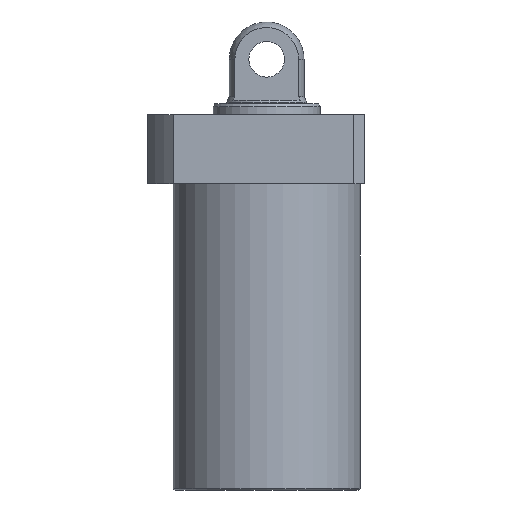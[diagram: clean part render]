
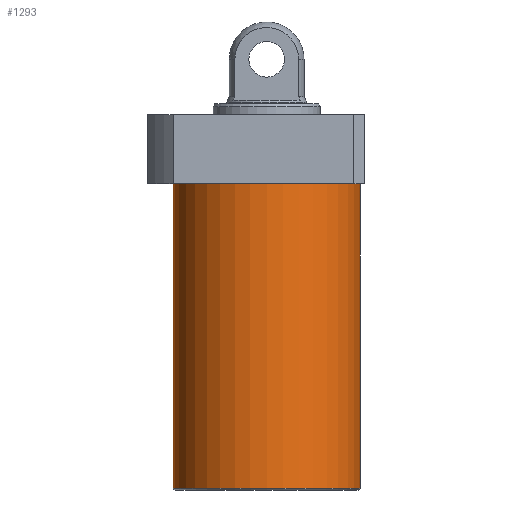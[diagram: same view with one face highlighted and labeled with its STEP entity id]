
A CAD part, front view. The second image highlights one B-rep face of the part: STEP entity #1293.
In plain terms, the highlighted cylindrical face has radius 52.5 mm (diameter 105 mm), a partial arc.
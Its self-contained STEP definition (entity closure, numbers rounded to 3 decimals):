
#2 = CARTESIAN_POINT ( 'NONE',  ( 0., 0., -190.5 ) ) ;
#21 = FACE_OUTER_BOUND ( 'NONE', #605, .T. ) ;
#40 = VERTEX_POINT ( 'NONE', #1475 ) ;
#44 = AXIS2_PLACEMENT_3D ( 'NONE', #2, #1019, #1024 ) ;
#80 = VERTEX_POINT ( 'NONE', #1321 ) ;
#290 = AXIS2_PLACEMENT_3D ( 'NONE', #561, #1551, #1688 ) ;
#297 = EDGE_CURVE ( 'NONE', #40, #80, #1235, .T. ) ;
#413 = EDGE_CURVE ( 'NONE', #80, #1449, #1060, .T. ) ;
#415 = ORIENTED_EDGE ( 'NONE', *, *, #297, .T. ) ;
#511 = EDGE_CURVE ( 'NONE', #1726, #1449, #685, .T. ) ;
#536 = CARTESIAN_POINT ( 'NONE',  ( 0., 0., -191.5 ) ) ;
#561 = CARTESIAN_POINT ( 'NONE',  ( 0., 0., -19.5 ) ) ;
#597 = AXIS2_PLACEMENT_3D ( 'NONE', #536, #705, #1553 ) ;
#605 = EDGE_LOOP ( 'NONE', ( #1403, #798, #415, #1427 ) ) ;
#658 = VECTOR ( 'NONE', #999, 1000. ) ;
#685 = LINE ( 'NONE', #1808, #658 ) ;
#705 = DIRECTION ( 'NONE',  ( 0., 0., 1. ) ) ;
#743 = CARTESIAN_POINT ( 'NONE',  ( -52.5, 0., -190.5 ) ) ;
#798 = ORIENTED_EDGE ( 'NONE', *, *, #1684, .T. ) ;
#901 = CYLINDRICAL_SURFACE ( 'NONE', #597, 52.5 ) ;
#959 = CIRCLE ( 'NONE', #44, 52.5 ) ;
#995 = VECTOR ( 'NONE', #1519, 1000. ) ;
#999 = DIRECTION ( 'NONE',  ( 0., 0., 1. ) ) ;
#1019 = DIRECTION ( 'NONE',  ( 0., 0., 1. ) ) ;
#1024 = DIRECTION ( 'NONE',  ( -1., 0., 0. ) ) ;
#1060 = CIRCLE ( 'NONE', #290, 52.5 ) ;
#1103 = CARTESIAN_POINT ( 'NONE',  ( 52.5, 0., -191.5 ) ) ;
#1235 = LINE ( 'NONE', #1103, #995 ) ;
#1293 = ADVANCED_FACE ( 'NONE', ( #21 ), #901, .T. ) ;
#1321 = CARTESIAN_POINT ( 'NONE',  ( 52.5, 0., -19.5 ) ) ;
#1403 = ORIENTED_EDGE ( 'NONE', *, *, #511, .F. ) ;
#1427 = ORIENTED_EDGE ( 'NONE', *, *, #413, .T. ) ;
#1442 = CARTESIAN_POINT ( 'NONE',  ( -52.5, 0., -19.5 ) ) ;
#1449 = VERTEX_POINT ( 'NONE', #1442 ) ;
#1475 = CARTESIAN_POINT ( 'NONE',  ( 52.5, 0., -190.5 ) ) ;
#1519 = DIRECTION ( 'NONE',  ( 0., 0., 1. ) ) ;
#1551 = DIRECTION ( 'NONE',  ( 0., 0., -1. ) ) ;
#1553 = DIRECTION ( 'NONE',  ( 1., 0., 0. ) ) ;
#1684 = EDGE_CURVE ( 'NONE', #1726, #40, #959, .T. ) ;
#1688 = DIRECTION ( 'NONE',  ( 1., 0., 0. ) ) ;
#1726 = VERTEX_POINT ( 'NONE', #743 ) ;
#1808 = CARTESIAN_POINT ( 'NONE',  ( -52.5, 0., -191.5 ) ) ;
